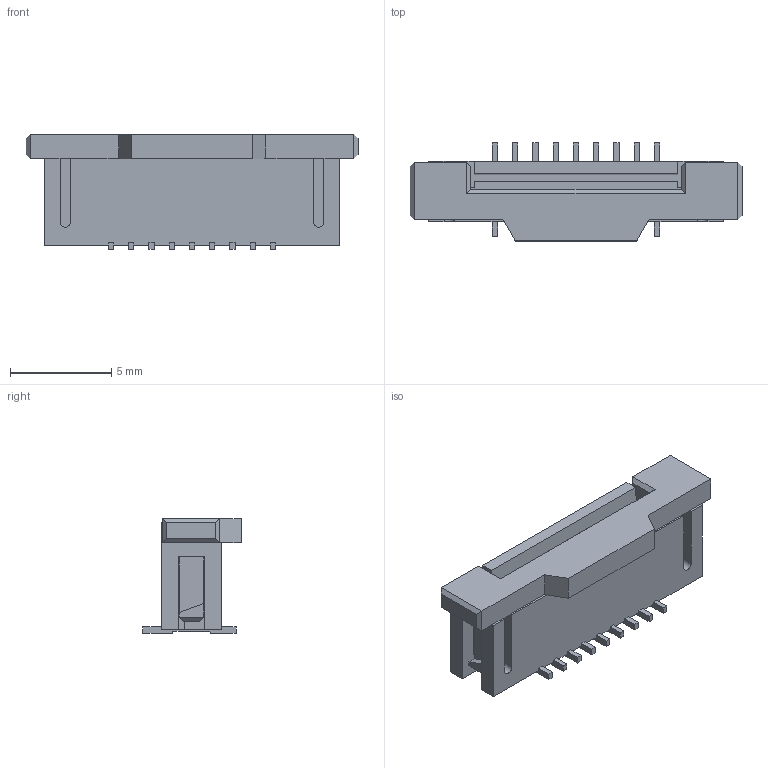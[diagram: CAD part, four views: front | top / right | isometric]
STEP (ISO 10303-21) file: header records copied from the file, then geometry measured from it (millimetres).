
FILE_DESCRIPTION((''),'2;1');
FILE_NAME('C-1734248-9','2013-11-29T',('workeradm'),('Tyco Electronics Ltd.'),'PRO/ENGINEER BY PARAMETRIC TECHNOLOGY CORPORATION, 2013050','PRO/ENGINEER BY PARAMETRIC TECHNOLOGY CORPORATION, 2013050','');
FILE_SCHEMA(('AUTOMOTIVE_DESIGN { 1 0 10303 214 1 1 1 1 }'));
Length unit declared in the file: millimetre
Products named in the file (1): C-1734248-9
Bounding box: 16.4 x 4.85 x 5.68 mm (x, y, z)
Volume: 211.6 mm3; surface area: 542.8 mm2
Topology: 1 solids, 1 shells, 292 faces, 888 edges, 586 vertices
Faces by surface type: plane 288, cylinder 4
Entity records: 9952 total; most frequent: ORIENTED_EDGE 1776, CARTESIAN_POINT 1768, DIRECTION 1480, EDGE_CURVE 888, VECTOR 880, LINE 880, VERTEX_POINT 586, EDGE_LOOP 310
